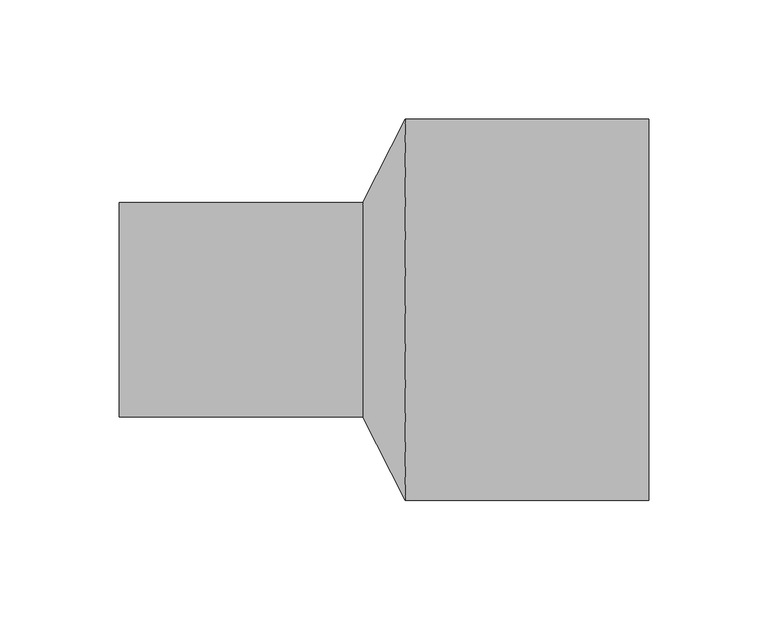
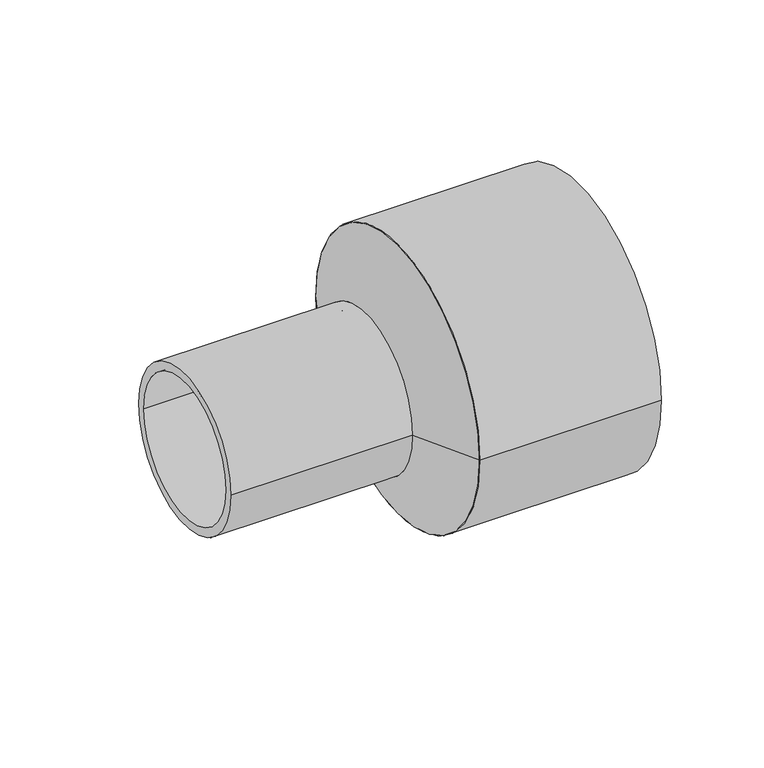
"""IFC4 building model written with IfcOpenShell, lengths in millimetres: pipe fitting geometry, EGB_VASEN_ PPR_Manguito reductor a tope WXRB110 : Manguito reductor a tope WXRB110."""

from ifc_helpers import new_model, si_unit, point, frame, origin, origin_2d, place, context, project, spatial, polyline, circle_curve, trimmed, segment, composite_curve, outline, extrude, source, transform, mapped, element, save
from ifc_brep_helpers import plane_surface, revolved_surface, advanced_brep


def pipe_fitting_3362abb5(model_context):
    return source(origin(), model_context, "Body", "SolidModel", [
        extrude(outline(composite_curve([segment(trimmed(circle_curve(origin_2d(), 80.0), [point((-80.0, 0.0))], [point((80.0, 0.0))], False, "CARTESIAN"), True, "CONTINUOUS"), segment(trimmed(circle_curve(origin_2d(), 80.0), [point((80.0, 0.0))], [point((-80.0, 0.0))], False, "CARTESIAN"), True, "CONTINUOUS")], self_intersect=False), holes=[composite_curve([segment(trimmed(circle_curve(origin_2d(), 75.0), [point((-75.0, 0.0))], [point((75.0, 0.0))], True, "CARTESIAN"), True, "CONTINUOUS"), segment(trimmed(circle_curve(origin_2d(), 75.0), [point((75.0, 0.0))], [point((-75.0, 0.0))], True, "CARTESIAN"), True, "CONTINUOUS")], self_intersect=False)]), frame((8.88, 0.0, 0.0), z_axis=(1.0, 0.0, 0.0), x_axis=(0.0, 1.0, 0.0)), (0.0, 0.0, 1.0), 102.12),
        extrude(outline(composite_curve([segment(trimmed(circle_curve(origin_2d(), 45.0), [point((-45.0, 0.0))], [point((45.0, 0.0))], False, "CARTESIAN"), True, "CONTINUOUS"), segment(trimmed(circle_curve(origin_2d(), 45.0), [point((45.0, 0.0))], [point((-45.0, 0.0))], False, "CARTESIAN"), True, "CONTINUOUS")], self_intersect=False), holes=[composite_curve([segment(trimmed(circle_curve(origin_2d(), 40.0), [point((-40.0, 0.0))], [point((40.0, 0.0))], True, "CARTESIAN"), True, "CONTINUOUS"), segment(trimmed(circle_curve(origin_2d(), 40.0), [point((40.0, 0.0))], [point((-40.0, 0.0))], True, "CARTESIAN"), True, "CONTINUOUS")], self_intersect=False)]), frame((-111.0, 0.0, 0.0), z_axis=(1.0, 0.0, 0.0), x_axis=(0.0, 1.0, 0.0)), (0.0, 0.0, 1.0), 102.12),
        advanced_brep(
        [(8.88, -80.0, 0.0), (8.88, 80.0, 0.0), (-8.88, -45.0, 0.0), (-8.88, 45.0, 0.0)],
        [
            (0, 1, circle_curve(frame((8.88, 0.0, 0.0), z_axis=(1.0, 0.0, 0.0), x_axis=(0.0, -1.0, 0.0)), 80.0)),
            (1, 0, circle_curve(frame((8.88, 0.0, 0.0), z_axis=(1.0, 0.0, 0.0), x_axis=(0.0, 1.0, 0.0)), 80.0)),
            (2, 3, circle_curve(frame((-8.88, 0.0, 0.0), z_axis=(-1.0, 0.0, 0.0), x_axis=(0.0, 1.0, 0.0)), 45.0)),
            (3, 2, circle_curve(frame((-8.88, 0.0, 0.0), z_axis=(-1.0, 0.0, 0.0), x_axis=(0.0, -1.0, 0.0)), 45.0)),
            (3, 1),
            (0, 2),
        ],
        [
            plane_surface(frame((8.88, 0.0, 0.0), z_axis=(1.0, 0.0, 0.0), x_axis=(0.0, 0.0, -1.0))),
            plane_surface(frame((-8.88, 0.0, 0.0), z_axis=(-1.0, 0.0, 0.0), x_axis=(0.0, 0.0, -1.0))),
            revolved_surface(polyline([(-8.879999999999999, 44.999999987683, 0.0), (8.879999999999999, 80.0, 0.0)]), (-31.7142857, 0.0, 0.0), (1.0, 0.0, 0.0)),
            revolved_surface(polyline([(-8.879999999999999, -44.999999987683, 0.0), (8.879999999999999, -80.0, 0.0)]), (-31.7142857, 0.0, 0.0), (1.0, 0.0, 0.0)),
        ],
        [
            (0, [[1, 2]]),
            (1, [[3, 4]]),
            (2, [[-4, 5, -1, 6]]),
            (3, [[-3, -6, -2, -5]]),
        ],
    ),
    ])


if __name__ == "__main__":
    model = new_model("IFC4")
    model_context = context("Model", 3, world=origin())
    ifc_project = project(units=[si_unit("LENGTHUNIT", "METRE", prefix="MILLI")], contexts=[model_context])
    site = spatial("IfcSite", under=ifc_project)
    building = spatial("IfcBuilding", under=site)
    placement = place(None, origin())
    pipe_fitting_shape = pipe_fitting_3362abb5(model_context)
    element("IfcPipeFitting", 1, ObjectType="EGB_VASEN_ PPR_Manguito reductor a tope WXRB110 : Manguito reductor a tope WXRB110", at=placement, inside=building, context=model_context, shape_type="MappedRepresentation", body=[
        mapped(pipe_fitting_shape, transform((0.0, 0.0, 0.0), x_axis=(1.0, 0.0, 0.0), y_axis=(0.0, 1.0, 0.0), z_axis=(0.0, 0.0, 1.0))),
    ])
    save(model, "model.ifc")
